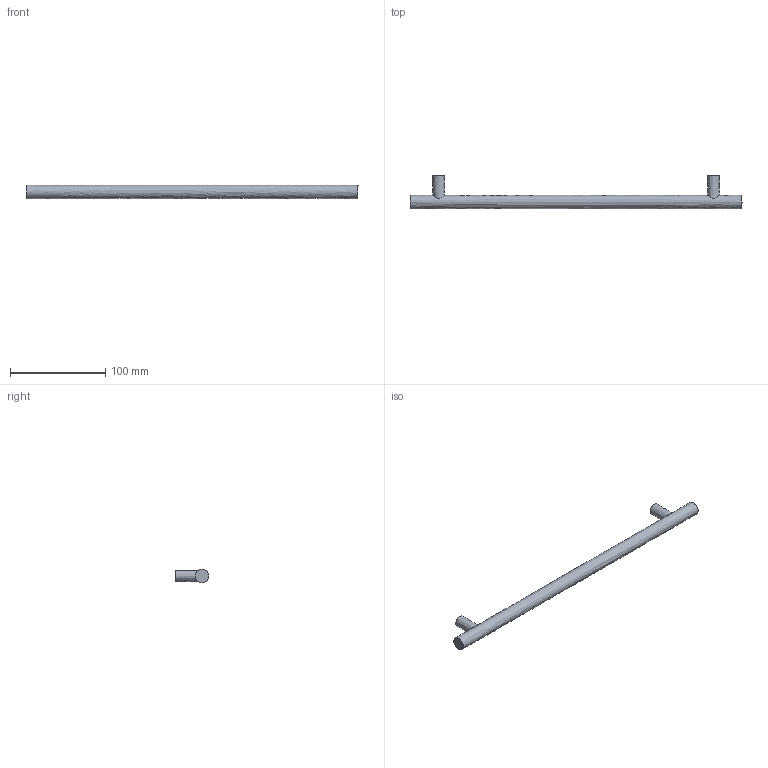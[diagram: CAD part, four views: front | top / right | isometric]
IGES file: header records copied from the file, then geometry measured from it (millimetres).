
Start section: Data from Parasolid IGES Translator 15.0.47, Copyright(c) 2006 Siemens P LM Software. All Rights Reserved.
Global section: file name: 9071053.igs; native system:  By UGS Corp.; preprocessor: XPlus GENERIC/IGES 3.0; author: Noname; organization: Noname; date: 20140122.181418; units: millimetre
Bounding box: 348 x 35 x 14 mm (x, y, z)
Surface area: 17585.5 mm2 (no closed solid volume)
Topology: 0 solids, 0 shells, 11 faces, 30 edges, 22 vertices
Faces by surface type: extrusion 6, revolution 5
